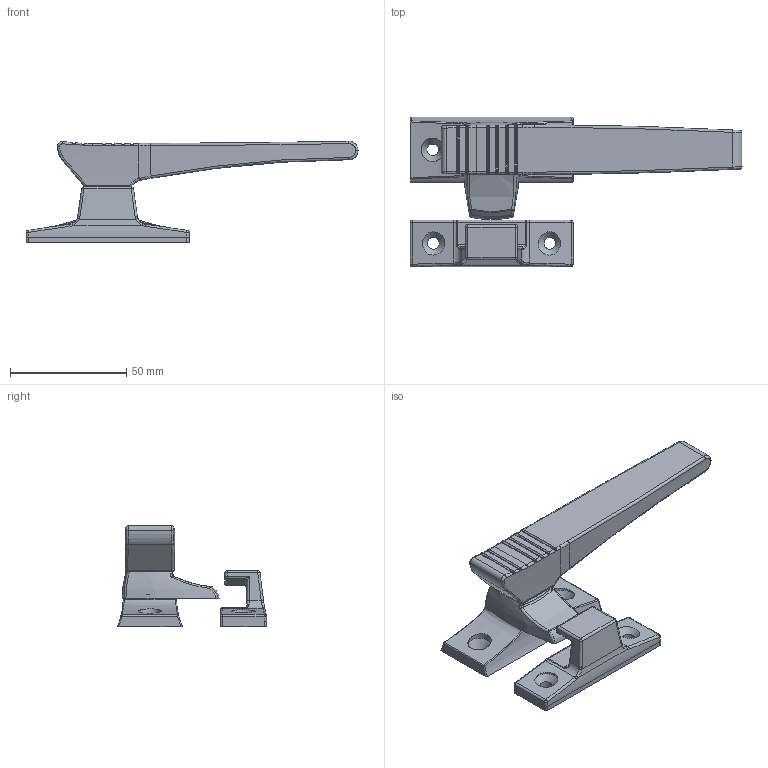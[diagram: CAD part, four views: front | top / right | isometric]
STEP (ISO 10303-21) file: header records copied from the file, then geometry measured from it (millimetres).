
FILE_DESCRIPTION(/* description */ (''),/* implementation_level */ '2;1');
FILE_NAME(/* name */ '\\NAS\db20\D-1118-2\DR_D-1118-2.stp',/* time_stamp */ '2017-07-25T11:48:07+09:00',/* author */ ('user'),/* organization */ (''),/* preprocessor_version */ 'ST-DEVELOPER v15.6',/* originating_system */ 'Autodesk Inventor 2015',/* authorisation */ '');
FILE_SCHEMA (('AUTOMOTIVE_DESIGN { 1 0 10303 214 3 1 1 }'));
Length unit declared in the file: millimetre
Products named in the file (7): DR_D-1118-2-B; DR_D-1118-2-H; DR_D-1118-2-BR; DR_D-1118-2-CR; DR_D-1118-2-LR; DR_D-1118-2-SCREW; DR_D-1118-2
Bounding box: 142.5 x 64.17 x 43.53 mm (x, y, z)
Volume: 65549.9 mm3; surface area: 26389.8 mm2
Topology: 6 solids, 6 shells, 349 faces, 832 edges, 486 vertices
Faces by surface type: cylinder 112, bspline 94, plane 81, sphere 32, torus 22, cone 8
Full cylindrical faces by diameter (mm): 5 x4, 6 x3, 10 x2, 10.9 x1, 12.5 x1, 15.7 x1, 16.3 x1, 22 x2, 22.5 x1, 23.3 x1
Entity records: 12960 total; most frequent: CARTESIAN_POINT 5530, ORIENTED_EDGE 1556, DIRECTION 1382, EDGE_CURVE 778, AXIS2_PLACEMENT_3D 580, VERTEX_POINT 475, EDGE_LOOP 397, FACE_OUTER_BOUND 349
